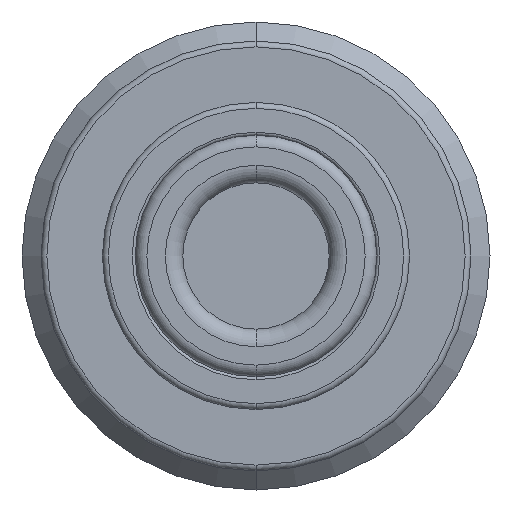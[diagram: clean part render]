
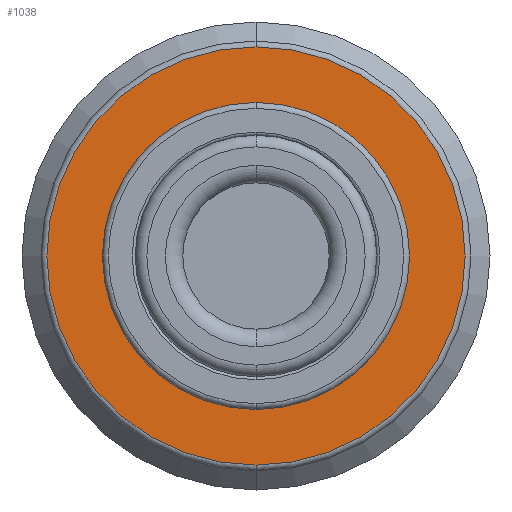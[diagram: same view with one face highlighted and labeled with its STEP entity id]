
A CAD part, front view. The second image highlights one B-rep face of the part: STEP entity #1038.
In plain terms, the highlighted planar face has unit normal (0, -1, 0).
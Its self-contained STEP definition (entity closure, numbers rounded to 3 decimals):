
#676=PLANE('',#2780);
#712=FACE_BOUND('',#1331,.T.);
#713=FACE_BOUND('',#1332,.T.);
#1038=ADVANCED_FACE('',(#712,#713),#676,.F.);
#1331=EDGE_LOOP('',(#1626,#1627));
#1332=EDGE_LOOP('',(#1628,#1629));
#1626=ORIENTED_EDGE('',*,*,#2342,.T.);
#1627=ORIENTED_EDGE('',*,*,#2218,.T.);
#1628=ORIENTED_EDGE('',*,*,#2267,.T.);
#1629=ORIENTED_EDGE('',*,*,#2341,.T.);
#2038=VERTEX_POINT('',#3710);
#2039=VERTEX_POINT('',#3711);
#2074=VERTEX_POINT('',#3808);
#2075=VERTEX_POINT('',#3810);
#2218=EDGE_CURVE('',#2038,#2039,#2511,.T.);
#2267=EDGE_CURVE('',#2075,#2074,#2539,.T.);
#2341=EDGE_CURVE('',#2074,#2075,#2570,.T.);
#2342=EDGE_CURVE('',#2039,#2038,#2571,.T.);
#2511=CIRCLE('',#2686,7.15);
#2539=CIRCLE('',#2728,5.25);
#2570=CIRCLE('',#2777,5.25);
#2571=CIRCLE('',#2779,7.15);
#2686=AXIS2_PLACEMENT_3D('',#3709,#3017,#3018);
#2728=AXIS2_PLACEMENT_3D('',#3809,#3122,#3123);
#2777=AXIS2_PLACEMENT_3D('',#4182,#3239,#3240);
#2779=AXIS2_PLACEMENT_3D('',#4184,#3243,#3244);
#2780=AXIS2_PLACEMENT_3D('',#4185,#3245,#3246);
#3017=DIRECTION('',(0.,-1.,0.));
#3018=DIRECTION('',(0.,0.,1.));
#3122=DIRECTION('',(0.,1.,0.));
#3123=DIRECTION('',(0.,0.,1.));
#3239=DIRECTION('',(0.,1.,0.));
#3240=DIRECTION('',(0.,0.,1.));
#3243=DIRECTION('',(0.,-1.,0.));
#3244=DIRECTION('',(0.,0.,1.));
#3245=DIRECTION('',(0.,1.,0.));
#3246=DIRECTION('',(0.,0.,-1.));
#3709=CARTESIAN_POINT('',(0.,0.,0.));
#3710=CARTESIAN_POINT('',(0.,0.,-7.15));
#3711=CARTESIAN_POINT('',(0.,0.,7.15));
#3808=CARTESIAN_POINT('',(0.,0.,-5.25));
#3809=CARTESIAN_POINT('',(0.,0.,0.));
#3810=CARTESIAN_POINT('',(0.,0.,5.25));
#4182=CARTESIAN_POINT('',(0.,0.,0.));
#4184=CARTESIAN_POINT('',(0.,0.,0.));
#4185=CARTESIAN_POINT('',(0.,0.,0.));
